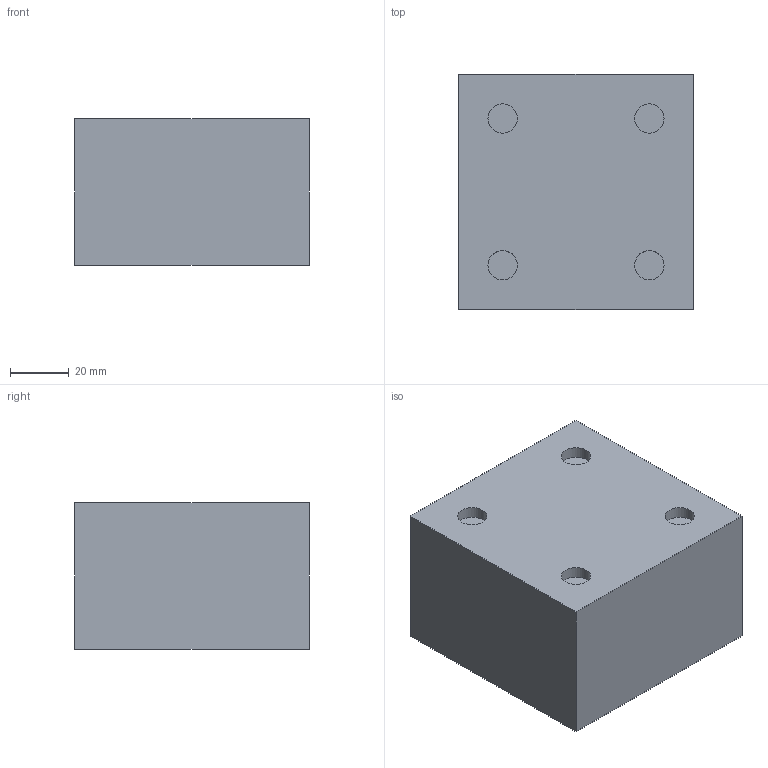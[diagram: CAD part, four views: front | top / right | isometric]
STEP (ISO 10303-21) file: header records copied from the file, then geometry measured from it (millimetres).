
FILE_DESCRIPTION(/* description */ (''),/* implementation_level */ '2;1');
FILE_NAME(/* name */ '2.step',/* time_stamp */ '2025-09-02T11:22:48+02:00',/* author */ (''),/* organization */ (''),/* preprocessor_version */ 'ST-DEVELOPER v20.1',/* originating_system */ 'Autodesk Translation Framework v14.10.0.0',/* authorisation */ '');
FILE_SCHEMA (('AUTOMOTIVE_DESIGN { 1 0 10303 214 3 1 1 }'));
Length unit declared in the file: millimetre
Products named in the file (1): Stufe 1
Bounding box: 80 x 80 x 50 mm (x, y, z)
Volume: 318743.4 mm3; surface area: 29302.7 mm2
Topology: 1 solids, 1 shells, 14 faces, 24 edges, 16 vertices
Faces by surface type: plane 10, cylinder 4
Full cylindrical faces by diameter (mm): 10 x4
Entity records: 369 total; most frequent: DIRECTION 62, CARTESIAN_POINT 55, ORIENTED_EDGE 48, EDGE_CURVE 24, AXIS2_PLACEMENT_3D 23, EDGE_LOOP 18, LINE 16, VECTOR 16
